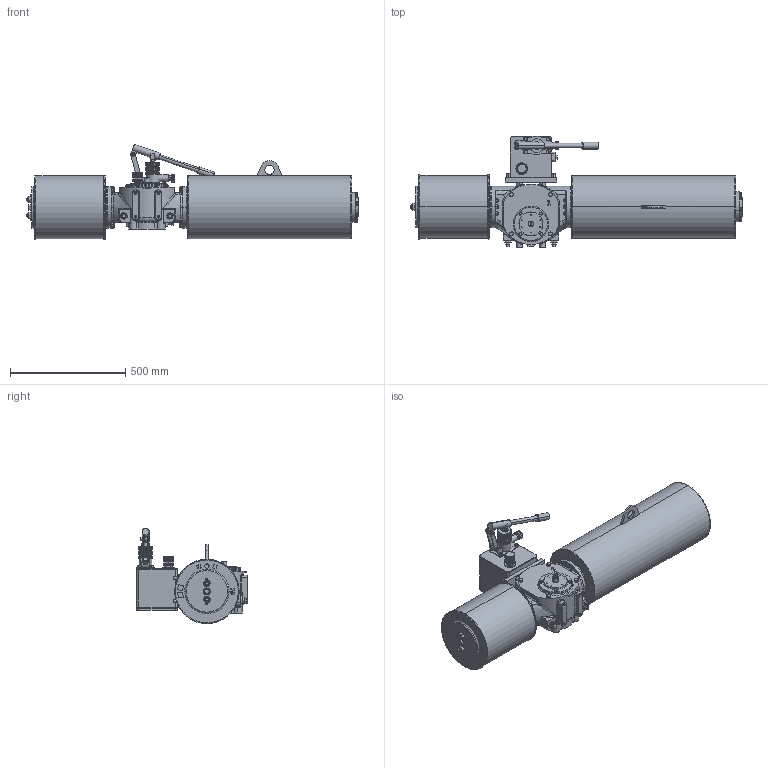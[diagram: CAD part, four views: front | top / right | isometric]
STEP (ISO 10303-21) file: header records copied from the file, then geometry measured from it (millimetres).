
FILE_DESCRIPTION (( 'STEP AP203' ), '1' );
FILE_NAME ('VTS2-250-SR-MH-FC.STEP', '2023-01-01T07:58:04', ( '' ), ( '' ), 'SwSTEP 2.0', 'SolidWorks 2020', '' );
FILE_SCHEMA (( 'CONFIG_CONTROL_DESIGN' ));
Products named in the file (1): VTS2-250-SR-MH-FC
Bounding box: 1441 x 483.4 x 413.77 mm (x, y, z)
Volume: 75532107.2 mm3; surface area: 2375913.2 mm2
Topology: 48 solids, 50 shells, 2431 faces, 6028 edges, 3823 vertices
Faces by surface type: plane 958, cylinder 850, cone 461, bspline 158, torus 4
Entity records: 86904 total; most frequent: CARTESIAN_POINT 29666, DIRECTION 11983, ORIENTED_EDGE 11952, EDGE_CURVE 5976, AXIS2_PLACEMENT_3D 4720, VERTEX_POINT 3823, EDGE_LOOP 2745, VECTOR 2543
